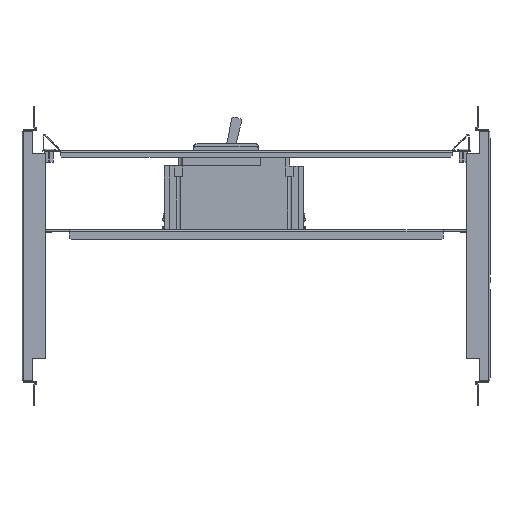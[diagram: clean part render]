
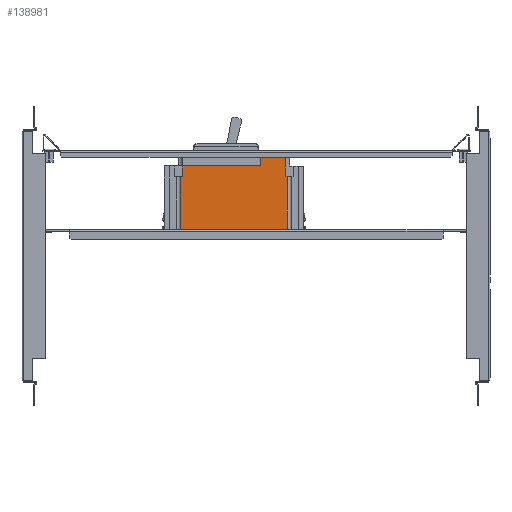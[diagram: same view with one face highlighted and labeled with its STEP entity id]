
A CAD part, front view. The second image highlights one B-rep face of the part: STEP entity #138981.
In plain terms, the highlighted planar face has unit normal (0, -1, 0).
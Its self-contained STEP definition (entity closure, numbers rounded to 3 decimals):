
#123996=CARTESIAN_POINT(' ',(26.758,-49.317,-65.647));
#123997=VERTEX_POINT(' ',#123996);
#124011=CARTESIAN_POINT(' ',(26.758,-49.317,-65.647));
#124016=DIRECTION(' ',(-1.,0.,0.));
#124021=VECTOR(' ',#124016,1.);
#124026=LINE('',#124011,#124021);
#124031=CARTESIAN_POINT(' ',(-85.662,-49.317,-65.647));
#124032=VERTEX_POINT(' ',#124031);
#124036=EDGE_CURVE(' ',#123997,#124032,#124026,.T.);
#138361=CARTESIAN_POINT(' ',(26.758,-49.317,-65.647));
#138366=DIRECTION(' ',(0.,0.,1.));
#138371=VECTOR(' ',#138366,1.);
#138376=LINE('',#138361,#138371);
#138381=CARTESIAN_POINT(' ',(26.758,-49.317,-65.147));
#138382=VERTEX_POINT(' ',#138381);
#138386=EDGE_CURVE(' ',#123997,#138382,#138376,.T.);
#138451=DIRECTION(' ',(0.,-1.,0.));
#138456=CARTESIAN_POINT(' ',(30.46,-49.317,-65.647));
#138461=DIRECTION(' ',(0.,0.,1.));
#138466=AXIS2_PLACEMENT_3D(' ',#138456,#138451,#138461);
#138471=PLANE('NONE',#138466);
#138476=CARTESIAN_POINT(' ',(30.46,-49.317,-5.716));
#138481=DIRECTION(' ',(0.,0.,-1.));
#138486=VECTOR(' ',#138481,1.);
#138491=LINE('',#138476,#138486);
#138496=CARTESIAN_POINT(' ',(30.46,-49.317,-5.716));
#138497=VERTEX_POINT(' ',#138496);
#138501=CARTESIAN_POINT(' ',(30.46,-49.317,-65.147));
#138502=VERTEX_POINT(' ',#138501);
#138506=EDGE_CURVE(' ',#138497,#138502,#138491,.T.);
#138511=ORIENTED_EDGE(' ',*,*,#138506,.F.);
#138516=CARTESIAN_POINT(' ',(28.56,-49.317,-5.716));
#138521=DIRECTION(' ',(1.,0.,0.));
#138526=VECTOR(' ',#138521,1.);
#138531=LINE('',#138516,#138526);
#138536=CARTESIAN_POINT(' ',(28.56,-49.317,-5.716));
#138537=VERTEX_POINT(' ',#138536);
#138541=EDGE_CURVE(' ',#138537,#138497,#138531,.T.);
#138546=ORIENTED_EDGE(' ',*,*,#138541,.F.);
#138551=CARTESIAN_POINT(' ',(28.56,-49.317,15.494));
#138556=DIRECTION(' ',(0.,0.,-1.));
#138561=VECTOR(' ',#138556,1.);
#138566=LINE('',#138551,#138561);
#138571=CARTESIAN_POINT(' ',(28.56,-49.317,15.494));
#138572=VERTEX_POINT(' ',#138571);
#138576=EDGE_CURVE(' ',#138572,#138537,#138566,.T.);
#138581=ORIENTED_EDGE(' ',*,*,#138576,.F.);
#138586=CARTESIAN_POINT(' ',(23.063,-49.317,15.494));
#138591=DIRECTION(' ',(1.,0.,0.));
#138596=VECTOR(' ',#138591,1.);
#138601=LINE('',#138586,#138596);
#138606=CARTESIAN_POINT(' ',(23.063,-49.317,15.494));
#138607=VERTEX_POINT(' ',#138606);
#138611=EDGE_CURVE(' ',#138607,#138572,#138601,.T.);
#138616=ORIENTED_EDGE(' ',*,*,#138611,.F.);
#138621=CARTESIAN_POINT(' ',(23.063,-49.317,21.344));
#138626=DIRECTION(' ',(0.,0.,-1.));
#138631=VECTOR(' ',#138626,1.);
#138636=LINE('',#138621,#138631);
#138641=CARTESIAN_POINT(' ',(23.063,-49.317,21.344));
#138642=VERTEX_POINT(' ',#138641);
#138646=EDGE_CURVE(' ',#138642,#138607,#138636,.T.);
#138651=ORIENTED_EDGE(' ',*,*,#138646,.F.);
#138656=CARTESIAN_POINT(' ',(0.565,-49.317,21.344));
#138661=DIRECTION(' ',(1.,0.,0.));
#138666=VECTOR(' ',#138661,1.);
#138671=LINE('',#138656,#138666);
#138676=CARTESIAN_POINT(' ',(0.565,-49.317,21.344));
#138677=VERTEX_POINT(' ',#138676);
#138681=EDGE_CURVE(' ',#138677,#138642,#138671,.T.);
#138686=ORIENTED_EDGE(' ',*,*,#138681,.F.);
#138691=CARTESIAN_POINT(' ',(0.565,-49.317,21.344));
#138696=DIRECTION(' ',(0.,0.,-1.));
#138701=VECTOR(' ',#138696,1.);
#138706=LINE('',#138691,#138701);
#138711=CARTESIAN_POINT(' ',(0.565,-49.317,6.204));
#138712=VERTEX_POINT(' ',#138711);
#138716=EDGE_CURVE(' ',#138677,#138712,#138706,.T.);
#138721=ORIENTED_EDGE(' ',*,*,#138716,.T.);
#138726=CARTESIAN_POINT(' ',(0.565,-49.317,6.204));
#138731=DIRECTION(' ',(-1.,0.,0.));
#138736=VECTOR(' ',#138731,1.);
#138741=LINE('',#138726,#138736);
#138746=CARTESIAN_POINT(' ',(-87.462,-49.317,6.204));
#138747=VERTEX_POINT(' ',#138746);
#138751=EDGE_CURVE(' ',#138712,#138747,#138741,.T.);
#138756=ORIENTED_EDGE(' ',*,*,#138751,.T.);
#138761=CARTESIAN_POINT(' ',(-87.462,-49.317,6.204));
#138766=DIRECTION(' ',(0.,0.,-1.));
#138771=VECTOR(' ',#138766,1.);
#138776=LINE('',#138761,#138771);
#138781=CARTESIAN_POINT(' ',(-87.462,-49.317,-6.096));
#138782=VERTEX_POINT(' ',#138781);
#138786=EDGE_CURVE(' ',#138747,#138782,#138776,.T.);
#138791=ORIENTED_EDGE(' ',*,*,#138786,.T.);
#138796=CARTESIAN_POINT(' ',(-87.462,-49.317,-6.096));
#138801=DIRECTION(' ',(-1.,0.,0.));
#138806=VECTOR(' ',#138801,1.);
#138811=LINE('',#138796,#138806);
#138816=CARTESIAN_POINT(' ',(-89.364,-49.317,-6.096));
#138817=VERTEX_POINT(' ',#138816);
#138821=EDGE_CURVE(' ',#138782,#138817,#138811,.T.);
#138826=ORIENTED_EDGE(' ',*,*,#138821,.T.);
#138831=CARTESIAN_POINT(' ',(-89.364,-49.317,-65.147));
#138836=DIRECTION(' ',(0.,0.,1.));
#138841=VECTOR(' ',#138836,1.);
#138846=LINE('',#138831,#138841);
#138851=CARTESIAN_POINT(' ',(-89.364,-49.317,-65.147));
#138852=VERTEX_POINT(' ',#138851);
#138856=EDGE_CURVE(' ',#138852,#138817,#138846,.T.);
#138861=ORIENTED_EDGE(' ',*,*,#138856,.F.);
#138866=CARTESIAN_POINT(' ',(-89.364,-49.317,-65.147));
#138871=DIRECTION(' ',(1.,0.,0.));
#138876=VECTOR(' ',#138871,1.);
#138881=LINE('',#138866,#138876);
#138886=CARTESIAN_POINT(' ',(-85.662,-49.317,-65.147));
#138887=VERTEX_POINT(' ',#138886);
#138891=EDGE_CURVE(' ',#138852,#138887,#138881,.T.);
#138896=ORIENTED_EDGE(' ',*,*,#138891,.T.);
#138901=CARTESIAN_POINT(' ',(-85.662,-49.317,-65.647));
#138906=DIRECTION(' ',(0.,0.,1.));
#138911=VECTOR(' ',#138906,1.);
#138916=LINE('',#138901,#138911);
#138921=EDGE_CURVE(' ',#124032,#138887,#138916,.T.);
#138926=ORIENTED_EDGE(' ',*,*,#138921,.F.);
#138931=ORIENTED_EDGE(' ',*,*,#124036,.F.);
#138936=ORIENTED_EDGE(' ',*,*,#138386,.T.);
#138941=CARTESIAN_POINT(' ',(30.46,-49.317,-65.147));
#138946=DIRECTION(' ',(-1.,0.,0.));
#138951=VECTOR(' ',#138946,1.);
#138956=LINE('',#138941,#138951);
#138961=EDGE_CURVE(' ',#138502,#138382,#138956,.T.);
#138966=ORIENTED_EDGE(' ',*,*,#138961,.F.);
#138971=EDGE_LOOP(' ',(#138511,#138546,#138581,#138616,#138651,#138686,#138721,#138756,#138791,#138826,#138861,#138896,#138926,#138931,#138936,#138966));
#138976=FACE_OUTER_BOUND(' ',#138971,.T.);
#138981=ADVANCED_FACE('NONE',(#138976),#138471,.T.);
